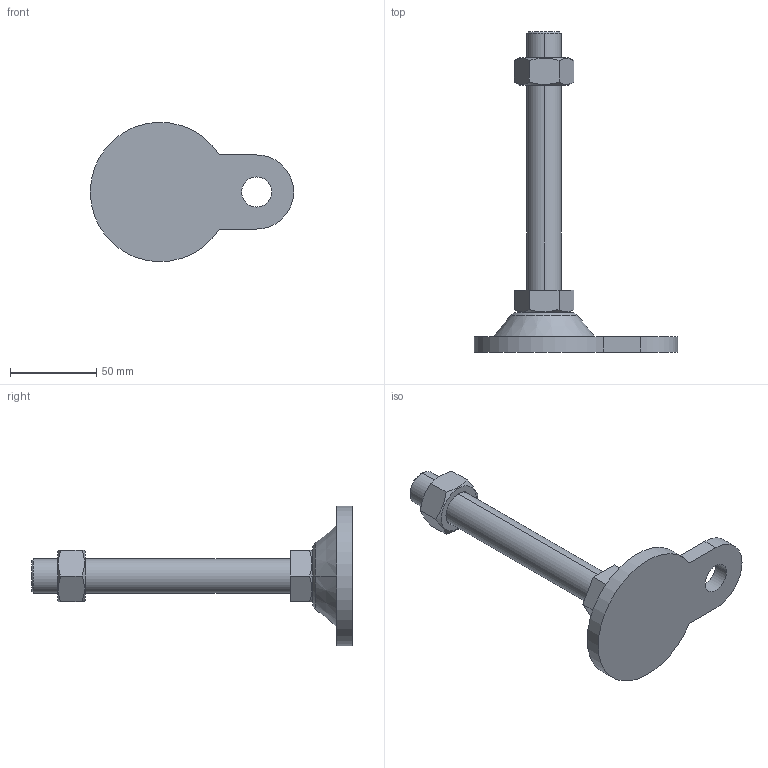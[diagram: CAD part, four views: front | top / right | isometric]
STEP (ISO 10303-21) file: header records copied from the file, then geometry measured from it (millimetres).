
FILE_DESCRIPTION (( 'STEP AP214' ), '1' );
FILE_NAME ('ARB81-M20-150.step', '2021-01-07T07:18:10', ( '' ), ( '' ), 'SwSTEP 2.0', 'SolidWorks 2019', '' );
FILE_SCHEMA (( 'AUTOMOTIVE_DESIGN' ));
Length unit declared in the file: millimetre
Products named in the file (1): ARB81-M20-150
Bounding box: 118 x 186 x 80.98 mm (x, y, z)
Volume: 147099.7 mm3; surface area: 32769.5 mm2
Topology: 3 solids, 3 shells, 46 faces, 104 edges, 66 vertices
Faces by surface type: plane 22, cone 14, cylinder 8, torus 2
Entity records: 1514 total; most frequent: CARTESIAN_POINT 431, DIRECTION 212, ORIENTED_EDGE 208, EDGE_CURVE 104, AXIS2_PLACEMENT_3D 83, VERTEX_POINT 66, EDGE_LOOP 52, ADVANCED_FACE 46
